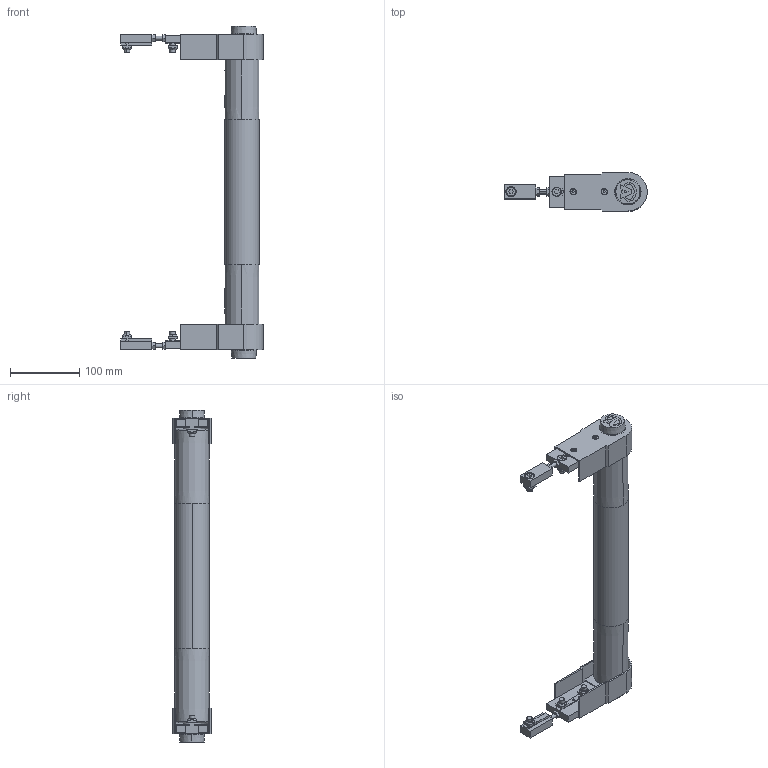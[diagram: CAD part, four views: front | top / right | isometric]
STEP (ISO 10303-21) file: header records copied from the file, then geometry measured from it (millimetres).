
FILE_DESCRIPTION (( 'STEP AP203' ), '1' );
FILE_NAME ('084.050.KIC.400.STEP', '2019-07-29T10:26:21', ( '' ), ( '' ), 'SwSTEP 2.0', 'SolidWorks 2018', '' );
FILE_SCHEMA (( 'CONFIG_CONTROL_DESIGN' ));
Length unit declared in the file: millimetre
Products named in the file (11): 084.050.KIC.400; 084.802.023_084.802.023; 084.301.000 VITI ALUSIC_084.301.003; 084.302.000 DADI ALUSIC 13x13_084.302.004; 084.807.004_084.807.004; 084.811.004; VITI TSEI UNI 5933_M4x12 UNI 5933; 084.815.117_Default<A macchina>; 084.802.017_084.802.017; 084.810.001; 084.802.008
Assembly tree (29 placements, depth 2):
  084.050.KIC.400
    084.802.023_084.802.023  x2
    084.807.004_084.807.004  x2
    084.802.017_084.802.017  x2
    084.811.004  x2
    084.815.117_Default<A macchina>
    084.810.001  x2
    084.802.008  x2
    VITI TSEI UNI 5933_M4x12 UNI 5933  x4
    084.301.000 VITI ALUSIC_084.301.003  x6
    084.302.000 DADI ALUSIC 13x13_084.302.004  x6
Bounding box: 206 x 56 x 480 mm (x, y, z)
Volume: 553769.4 mm3; surface area: 368585 mm2
Topology: 35 solids, 37 shells, 950 faces, 2360 edges, 1532 vertices
Faces by surface type: plane 458, cylinder 250, cone 92, torus 80, bspline 62, sphere 8
Entity records: 15287 total; most frequent: CARTESIAN_POINT 2926, DIRECTION 2296, ORIENTED_EDGE 2180, EDGE_CURVE 1090, AXIS2_PLACEMENT_3D 859, VERTEX_POINT 713, VECTOR 578, LINE 578
